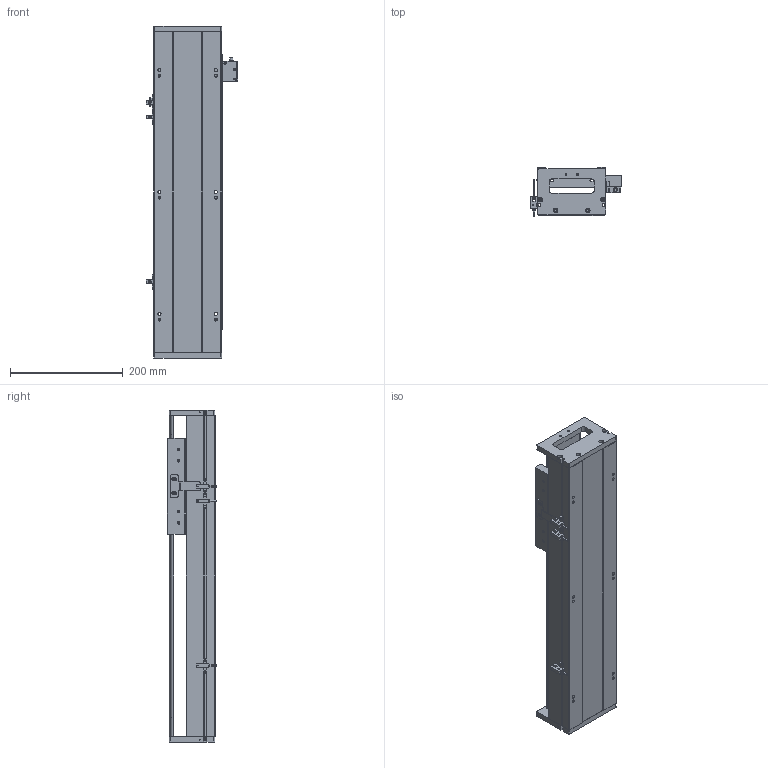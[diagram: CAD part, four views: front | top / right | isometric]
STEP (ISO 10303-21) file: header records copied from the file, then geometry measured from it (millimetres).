
FILE_DESCRIPTION (( 'STEP AP203' ), '1' );
FILE_NAME ('SKR12S-C1-S318（简）.STEP', '2022-09-26T02:29:38', ( '' ), ( '' ), 'SwSTEP 2.0', 'SolidWorks 2018', '' );
FILE_SCHEMA (( 'CONFIG_CONTROL_DESIGN' ));
Length unit declared in the file: millimetre
Products named in the file (8): EE-SX672; SKR12耜啣; SIKO棠掑; 棠掑假蚾輸; SKR12滑台-170L（简）; 覜茼え; SKR12S-C1-S318（简）; SKR12菁釱-C1-S318(潠)
Assembly tree (10 placements, depth 2):
  SKR12S-C1-S318（简）
    SKR12菁釱-C1-S318(潠)
    SKR12滑台-170L（简）
    SKR12耜啣  x2
    棠掑假蚾輸
    SIKO棠掑
    覜茼え
    EE-SX672  x3
Bounding box: 162.7 x 87.3 x 588 mm (x, y, z)
Volume: 2889195.9 mm3; surface area: 497862.7 mm2
Topology: 11 solids, 11 shells, 908 faces, 2399 edges, 1519 vertices
Faces by surface type: cylinder 397, plane 389, cone 122
Entity records: 23999 total; most frequent: CARTESIAN_POINT 4483, DIRECTION 4049, ORIENTED_EDGE 3786, EDGE_CURVE 1893, AXIS2_PLACEMENT_3D 1485, VERTEX_POINT 1223, VECTOR 1079, LINE 1079
